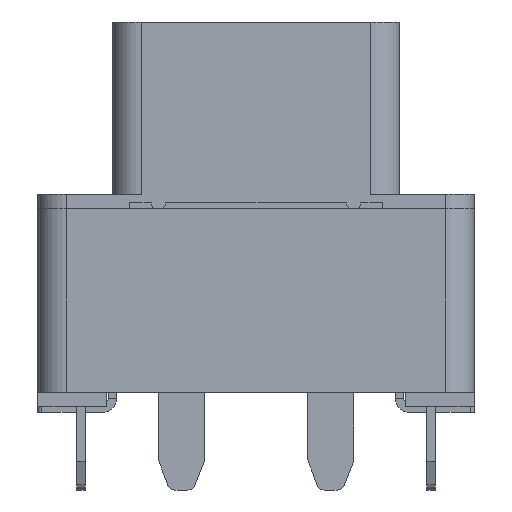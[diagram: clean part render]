
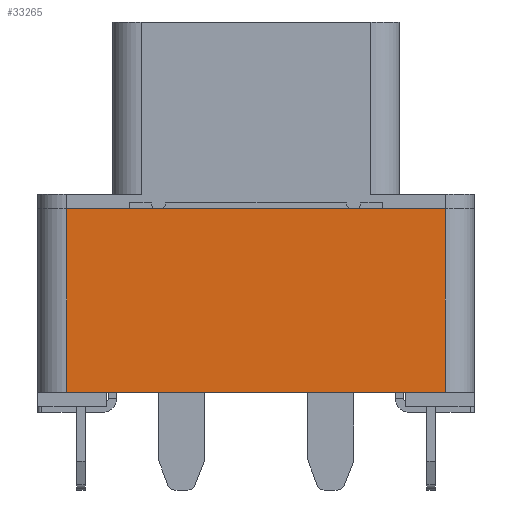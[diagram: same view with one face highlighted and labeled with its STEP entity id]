
A CAD part, left-side view. The second image highlights one B-rep face of the part: STEP entity #33265.
In plain terms, the highlighted planar face has unit normal (-1, 0, 0).
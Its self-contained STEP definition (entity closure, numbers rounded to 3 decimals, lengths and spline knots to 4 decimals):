
#195 = CARTESIAN_POINT ( 'NONE',  ( 0., 7.1, 3.45 ) ) ;
#2372 = PLANE ( 'NONE',  #30160 ) ;
#8448 = ORIENTED_EDGE ( 'NONE', *, *, #52091, .F. ) ;
#19926 = VERTEX_POINT ( 'NONE', #62406 ) ;
#27556 = LINE ( 'NONE', #126408, #124947 ) ;
#30160 = AXIS2_PLACEMENT_3D ( 'NONE', #195, #100092, #122012 ) ;
#33265 = ADVANCED_FACE ( 'NONE', ( #185772 ), #2372, .F. ) ;
#40750 = VECTOR ( 'NONE', #64012, 1000. ) ;
#45429 = EDGE_CURVE ( 'NONE', #190646, #19926, #175196, .T. ) ;
#49895 = LINE ( 'NONE', #116900, #166419 ) ;
#51639 = EDGE_CURVE ( 'NONE', #142745, #190646, #195864, .T. ) ;
#52091 = EDGE_CURVE ( 'NONE', #142745, #87646, #27556, .T. ) ;
#59895 = ORIENTED_EDGE ( 'NONE', *, *, #45429, .T. ) ;
#62406 = CARTESIAN_POINT ( 'NONE',  ( 0., 0.5, 0. ) ) ;
#64012 = DIRECTION ( 'NONE',  ( 0., 0., -1. ) ) ;
#78141 = EDGE_CURVE ( 'NONE', #87646, #19926, #49895, .T. ) ;
#87646 = VERTEX_POINT ( 'NONE', #191276 ) ;
#100092 = DIRECTION ( 'NONE',  ( 1., 0., 0. ) ) ;
#107026 = CARTESIAN_POINT ( 'NONE',  ( 0., 7.1, 0. ) ) ;
#107089 = CARTESIAN_POINT ( 'NONE',  ( 0., 7.1, 0. ) ) ;
#116900 = CARTESIAN_POINT ( 'NONE',  ( 0., 0.5, 3.45 ) ) ;
#122010 = ORIENTED_EDGE ( 'NONE', *, *, #78141, .F. ) ;
#122012 = DIRECTION ( 'NONE',  ( 0., 1., 0. ) ) ;
#124947 = VECTOR ( 'NONE', #193438, 1000. ) ;
#126408 = CARTESIAN_POINT ( 'NONE',  ( 0., 7.1, 3.2 ) ) ;
#142745 = VERTEX_POINT ( 'NONE', #151110 ) ;
#151110 = CARTESIAN_POINT ( 'NONE',  ( 0., 7.1, 3.2 ) ) ;
#157235 = EDGE_LOOP ( 'NONE', ( #8448, #214881, #59895, #122010 ) ) ;
#158702 = DIRECTION ( 'NONE',  ( 0., -1., 0. ) ) ;
#160850 = VECTOR ( 'NONE', #158702, 1000. ) ;
#166419 = VECTOR ( 'NONE', #183913, 1000. ) ;
#175196 = LINE ( 'NONE', #107089, #160850 ) ;
#180434 = CARTESIAN_POINT ( 'NONE',  ( 0., 7.1, 3.45 ) ) ;
#183913 = DIRECTION ( 'NONE',  ( 0., 0., -1. ) ) ;
#185772 = FACE_OUTER_BOUND ( 'NONE', #157235, .T. ) ;
#190646 = VERTEX_POINT ( 'NONE', #107026 ) ;
#191276 = CARTESIAN_POINT ( 'NONE',  ( 0., 0.5, 3.2 ) ) ;
#193438 = DIRECTION ( 'NONE',  ( 0., -1., 0. ) ) ;
#195864 = LINE ( 'NONE', #180434, #40750 ) ;
#214881 = ORIENTED_EDGE ( 'NONE', *, *, #51639, .T. ) ;
